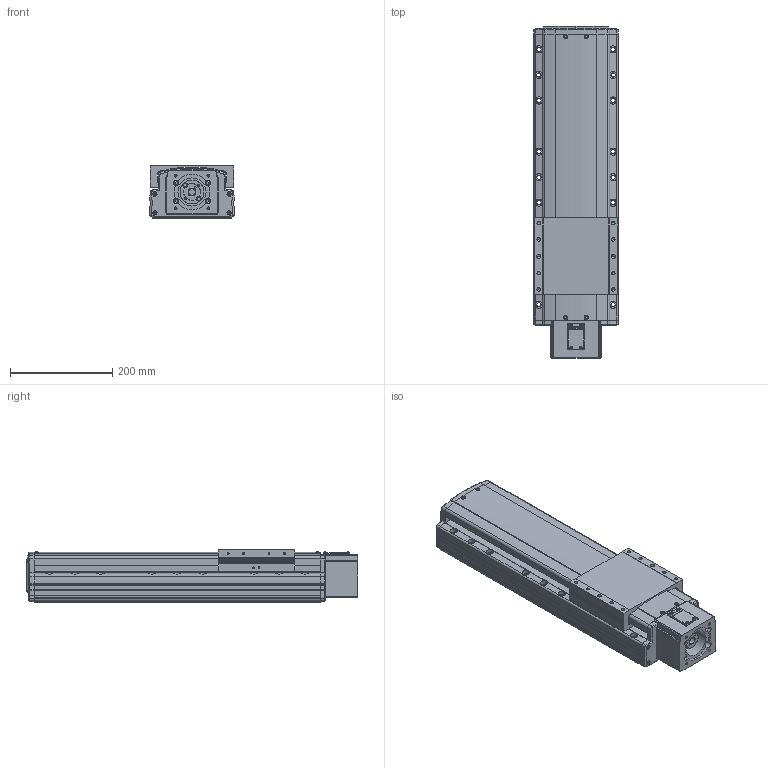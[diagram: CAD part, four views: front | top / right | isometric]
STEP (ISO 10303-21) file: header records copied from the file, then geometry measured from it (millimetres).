
FILE_DESCRIPTION(('STEP AP214'),'1');
FILE_NAME('Z:/Web/3D/PSA165/STP/PSA165-300 (3D)/PSA165ㅁㅁ-300S.stp','2014-06-23T09:22:03',(' '),(' '),'Spatial InterOp 3D',' ',' ');
FILE_SCHEMA(('automotive_design'));
Length unit declared in the file: millimetre
Products named in the file (67): 스크루 : Round - M4.0 x 12.0; RRCV-PA160; BASE; 스크루 : Round - M4.0 x 10.0; RN15; Screw 20; SLIDE; FRCV; 스크루 : Socket - M6.0 x 25.0; MTHZ-SAN150-80A; SSFX-SAN65; CPLCV-SAN65; 스크루 : Round - M3.0 x 6.0; SDWA47C(2); SDWA47C(3-1); SDWA47C(3); SDWA47C(1); SDWA47C(4); SDWA47C(5)
Bounding box: 165 x 649.8 x 104 mm (x, y, z)
Volume: 8628342.1 mm3; surface area: 702194.9 mm2
Topology: 67 solids, 67 shells, 2924 faces, 7783 edges, 5009 vertices
Faces by surface type: plane 1372, cylinder 1098, cone 345, sphere 50, bspline 35, torus 24
Entity records: 120039 total; most frequent: CARTESIAN_POINT 21025, DIRECTION 16215, ORIENTED_EDGE 15286, EDGE_CURVE 7643, AXIS2_PLACEMENT_3D 5849, VERTEX_POINT 5009, LINE 4517, VECTOR 4517
